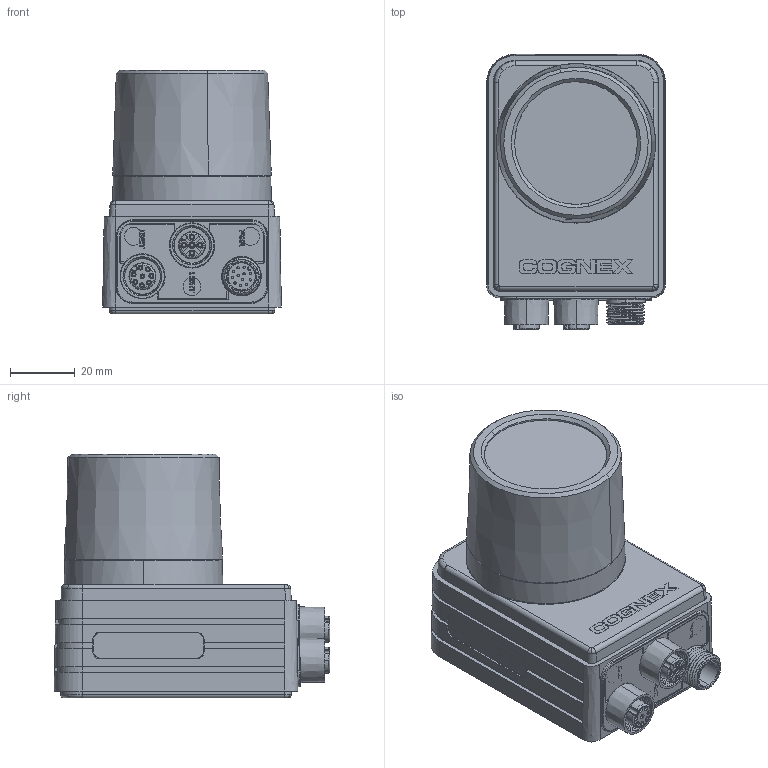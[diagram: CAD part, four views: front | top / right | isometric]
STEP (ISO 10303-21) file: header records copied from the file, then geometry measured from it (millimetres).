
FILE_DESCRIPTION (( 'STEP AP214' ), '1' );
FILE_NAME ('IS011-03_12-12-11.STEP', '2011-12-12T22:54:18', ( '' ), ( '' ), 'SwSTEP 2.0', 'SolidWorks 2011', '' );
FILE_SCHEMA (( 'AUTOMOTIVE_DESIGN' ));
Length unit declared in the file: millimetre
Products named in the file (1): IS011-03_12-12-11
Bounding box: 55 x 84.81 x 75 mm (x, y, z)
Volume: 167508.4 mm3; surface area: 65261.4 mm2
Topology: 6 solids, 33 shells, 4580 faces, 11578 edges, 7549 vertices
Faces by surface type: plane 2956, bspline 640, cylinder 627, cone 254, torus 63, sphere 40
Entity records: 186335 total; most frequent: CARTESIAN_POINT 62885, ORIENTED_EDGE 23068, DIRECTION 19332, EDGE_CURVE 11534, LINE 8224, VECTOR 8224, VERTEX_POINT 7545, AXIS2_PLACEMENT_3D 5554
